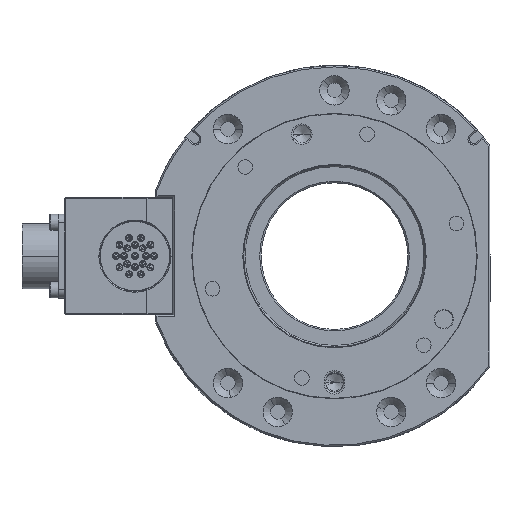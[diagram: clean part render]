
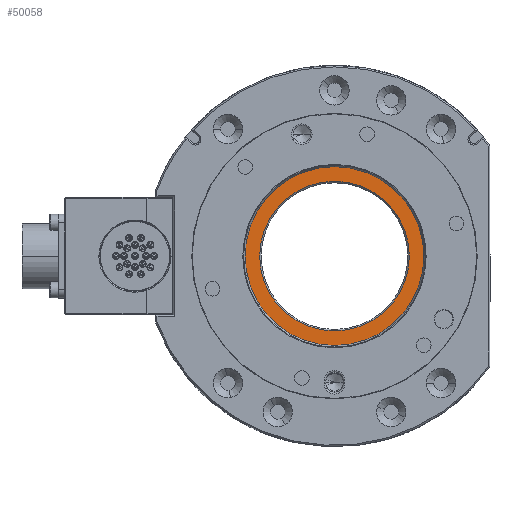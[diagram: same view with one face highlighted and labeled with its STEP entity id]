
A CAD part, front view. The second image highlights one B-rep face of the part: STEP entity #50058.
In plain terms, the highlighted planar face has unit normal (0, -1, 0).
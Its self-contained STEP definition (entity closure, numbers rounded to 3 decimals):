
#849 = ORIENTED_EDGE ( 'NONE', *, *, #34749, .T. ) ;
#1700 = CARTESIAN_POINT ( 'NONE',  ( -73.084, 168.676, 127.774 ) ) ;
#2331 = PLANE ( 'NONE',  #51703 ) ;
#2832 = FACE_BOUND ( 'NONE', #57454, .T. ) ;
#5600 = DIRECTION ( 'NONE',  ( 1., 0., 0. ) ) ;
#5658 = CARTESIAN_POINT ( 'NONE',  ( -79.584, 168.676, 127.774 ) ) ;
#5926 = CARTESIAN_POINT ( 'NONE',  ( -47.584, 168.676, 127.774 ) ) ;
#7140 = DIRECTION ( 'NONE',  ( 1., 0., 0. ) ) ;
#8116 = DIRECTION ( 'NONE',  ( 1., 0., 0. ) ) ;
#10858 = AXIS2_PLACEMENT_3D ( 'NONE', #66951, #50395, #40079 ) ;
#11294 = CIRCLE ( 'NONE', #68050, 32. ) ;
#13364 = CARTESIAN_POINT ( 'NONE',  ( -47.584, 168.676, 127.774 ) ) ;
#14021 = EDGE_CURVE ( 'NONE', #27612, #69711, #43993, .T. ) ;
#15975 = DIRECTION ( 'NONE',  ( 0., 1., 0. ) ) ;
#18127 = DIRECTION ( 'NONE',  ( 0., 1., 0. ) ) ;
#21398 = CARTESIAN_POINT ( 'NONE',  ( -47.584, 168.676, 127.774 ) ) ;
#22777 = AXIS2_PLACEMENT_3D ( 'NONE', #21398, #54683, #5600 ) ;
#23744 = EDGE_LOOP ( 'NONE', ( #849, #66491 ) ) ;
#27612 = VERTEX_POINT ( 'NONE', #34258 ) ;
#28927 = DIRECTION ( 'NONE',  ( 0., -1., 0. ) ) ;
#29056 = EDGE_CURVE ( 'NONE', #56085, #64569, #11294, .T. ) ;
#31633 = CARTESIAN_POINT ( 'NONE',  ( -15.584, 168.676, 127.774 ) ) ;
#33736 = FACE_OUTER_BOUND ( 'NONE', #23744, .T. ) ;
#34258 = CARTESIAN_POINT ( 'NONE',  ( -22.084, 168.676, 127.774 ) ) ;
#34749 = EDGE_CURVE ( 'NONE', #64569, #56085, #58279, .T. ) ;
#37445 = AXIS2_PLACEMENT_3D ( 'NONE', #5926, #15975, #44233 ) ;
#37916 = ORIENTED_EDGE ( 'NONE', *, *, #61510, .T. ) ;
#40079 = DIRECTION ( 'NONE',  ( 1., 0., 0. ) ) ;
#43993 = CIRCLE ( 'NONE', #37445, 25.5 ) ;
#44233 = DIRECTION ( 'NONE',  ( 1., 0., 0. ) ) ;
#48610 = CIRCLE ( 'NONE', #10858, 25.5 ) ;
#50058 = ADVANCED_FACE ( 'NONE', ( #33736, #2832 ), #2331, .F. ) ;
#50395 = DIRECTION ( 'NONE',  ( 0., 1., 0. ) ) ;
#51703 = AXIS2_PLACEMENT_3D ( 'NONE', #56689, #18127, #7140 ) ;
#54683 = DIRECTION ( 'NONE',  ( 0., -1., 0. ) ) ;
#56085 = VERTEX_POINT ( 'NONE', #5658 ) ;
#56689 = CARTESIAN_POINT ( 'NONE',  ( -47.584, 168.676, 152.774 ) ) ;
#57454 = EDGE_LOOP ( 'NONE', ( #37916, #69120 ) ) ;
#58279 = CIRCLE ( 'NONE', #22777, 32. ) ;
#61510 = EDGE_CURVE ( 'NONE', #69711, #27612, #48610, .T. ) ;
#64569 = VERTEX_POINT ( 'NONE', #31633 ) ;
#66491 = ORIENTED_EDGE ( 'NONE', *, *, #29056, .T. ) ;
#66951 = CARTESIAN_POINT ( 'NONE',  ( -47.584, 168.676, 127.774 ) ) ;
#68050 = AXIS2_PLACEMENT_3D ( 'NONE', #13364, #28927, #8116 ) ;
#69120 = ORIENTED_EDGE ( 'NONE', *, *, #14021, .T. ) ;
#69711 = VERTEX_POINT ( 'NONE', #1700 ) ;
